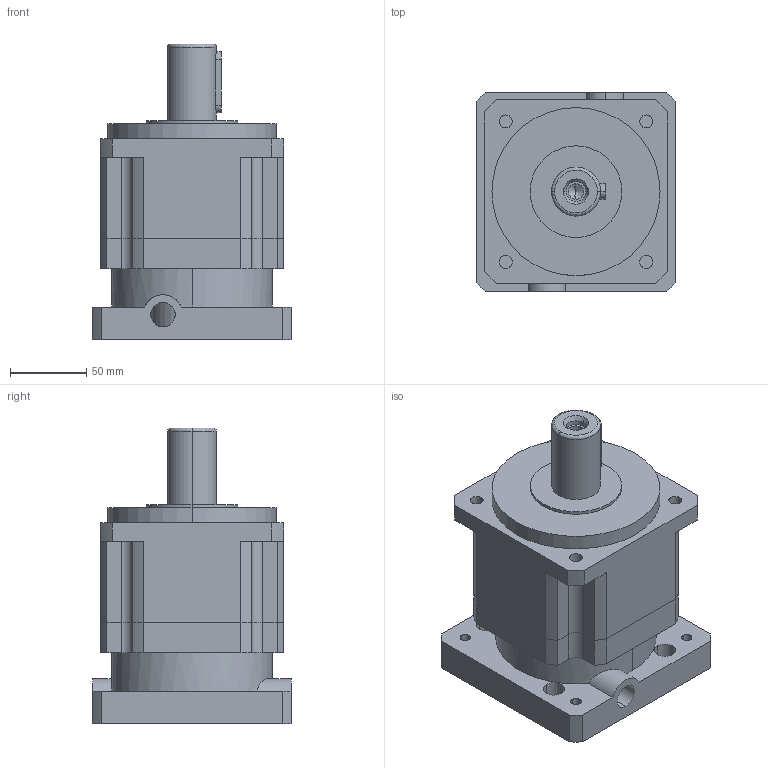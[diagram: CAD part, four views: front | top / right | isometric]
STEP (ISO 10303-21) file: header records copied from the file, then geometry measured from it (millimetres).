
FILE_DESCRIPTION (( 'STEP AP203' ), '1' );
FILE_NAME ('PAG120-L1-28-110-145.STEP', '2024-06-20T01:52:50', ( 'Windows User' ), ( 'P R C' ), 'SwSTEP 2.0', 'SolidWorks 2016', '' );
FILE_SCHEMA (( 'CONFIG_CONTROL_DESIGN' ));
Length unit declared in the file: millimetre
Products named in the file (7): PAG120-帣釱-揤翉; 囀鞠褒蹟佪-M8℅25; 邧埴瑩 10x8x40; 粣創-6009 45x75x16; PAG120-L1-28-110-145; PAG120-本体齿圈; PAG120-薊粣ん-28_LZ03
Assembly tree (6 placements, depth 2):
  PAG120-L1-28-110-145
    PAG120-本体齿圈
    PAG120-薊粣ん-28_LZ03
    PAG120-帣釱-揤翉
    囀鞠褒蹟佪-M8℅25
    邧埴瑩 10x8x40
    粣創-6009 45x75x16
Bounding box: 130 x 130 x 193.5 mm (x, y, z)
Volume: 1584672.5 mm3; surface area: 210445.7 mm2
Topology: 6 solids, 6 shells, 1012 faces, 2793 edges, 1848 vertices
Faces by surface type: plane 561, bspline 274, cylinder 169, cone 8
Entity records: 43984 total; most frequent: CARTESIAN_POINT 19024, ORIENTED_EDGE 5574, DIRECTION 4155, EDGE_CURVE 2787, VERTEX_POINT 1844, LINE 1613, VECTOR 1613, AXIS2_PLACEMENT_3D 1271
